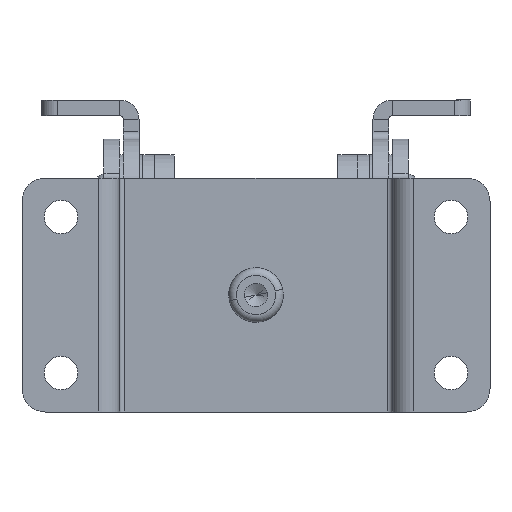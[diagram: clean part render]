
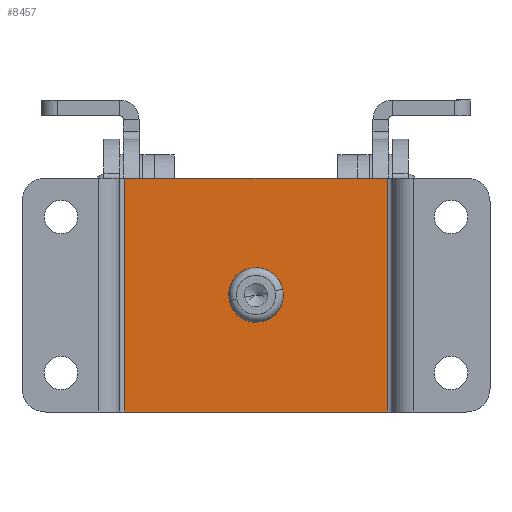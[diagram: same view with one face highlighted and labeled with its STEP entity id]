
A CAD part, front view. The second image highlights one B-rep face of the part: STEP entity #8457.
In plain terms, the highlighted planar face has unit normal (0, -1, 0).
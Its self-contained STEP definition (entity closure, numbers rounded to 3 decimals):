
#8400 = CARTESIAN_POINT ( 'NONE',  ( 0., -2., 0. ) ) ;
#8401 = DIRECTION ( 'NONE',  ( 0., 1., 0. ) ) ;
#8402 = DIRECTION ( 'NONE',  ( 0., 0., 1. ) ) ;
#8403 = CARTESIAN_POINT ( 'NONE',  ( -16.8, -2., -15. ) ) ;
#8404 = DIRECTION ( 'NONE',  ( 0., 0., 1. ) ) ;
#8405 = CARTESIAN_POINT ( 'NONE',  ( 19.5, -2., -15. ) ) ;
#8406 = DIRECTION ( 'NONE',  ( -1., 0., 0. ) ) ;
#8437 = PLANE ( 'NONE',  #14036 ) ;
#8438 = CARTESIAN_POINT ( 'NONE',  ( -19.5, -2., -15. ) ) ;
#8439 = DIRECTION ( 'NONE',  ( 0., 1., 0. ) ) ;
#8440 = DIRECTION ( 'NONE',  ( 0., 0., 1. ) ) ;
#8446 = EDGE_CURVE ( 'NONE', #8832, #8831, #14023, .T. ) ;
#8447 = EDGE_CURVE ( 'NONE', #8823, #8820, #13819, .T. ) ;
#8448 = EDGE_CURVE ( 'NONE', #8814, #8823, #13820, .T. ) ;
#8457 = ADVANCED_FACE ( 'NONE', ( #13828, #13829 ), #8437, .F. ) ;
#8505 = EDGE_CURVE ( 'NONE', #8831, #8832, #14088, .T. ) ;
#8529 = EDGE_CURVE ( 'NONE', #8894, #8814, #13910, .T. ) ;
#8530 = EDGE_CURVE ( 'NONE', #8820, #8894, #13911, .T. ) ;
#8814 = VERTEX_POINT ( 'NONE', #15060 ) ;
#8820 = VERTEX_POINT ( 'NONE', #15066 ) ;
#8823 = VERTEX_POINT ( 'NONE', #15069 ) ;
#8831 = VERTEX_POINT ( 'NONE', #15077 ) ;
#8832 = VERTEX_POINT ( 'NONE', #15078 ) ;
#8894 = VERTEX_POINT ( 'NONE', #15096 ) ;
#9671 = EDGE_LOOP ( 'NONE', ( #9916, #9917 ) ) ;
#9672 = EDGE_LOOP ( 'NONE', ( #9915, #9919, #9918, #9920 ) ) ;
#9915 = ORIENTED_EDGE ( 'NONE', *, *, #8447, .F. ) ;
#9916 = ORIENTED_EDGE ( 'NONE', *, *, #8446, .T. ) ;
#9917 = ORIENTED_EDGE ( 'NONE', *, *, #8505, .T. ) ;
#9918 = ORIENTED_EDGE ( 'NONE', *, *, #8529, .F. ) ;
#9919 = ORIENTED_EDGE ( 'NONE', *, *, #8448, .F. ) ;
#9920 = ORIENTED_EDGE ( 'NONE', *, *, #8530, .F. ) ;
#13819 = LINE ( 'NONE', #8403, #14025 ) ;
#13820 = LINE ( 'NONE', #8405, #14027 ) ;
#13828 = FACE_BOUND ( 'NONE', #9671, .T. ) ;
#13829 = FACE_OUTER_BOUND ( 'NONE', #9672, .T. ) ;
#13910 = LINE ( 'NONE', #14289, #15148 ) ;
#13911 = LINE ( 'NONE', #14291, #15150 ) ;
#14023 = CIRCLE ( 'NONE', #14024, 2.5 ) ;
#14024 = AXIS2_PLACEMENT_3D ( 'NONE', #8400, #8401, #8402 ) ;
#14025 = VECTOR ( 'NONE', #8404, 1000. ) ;
#14027 = VECTOR ( 'NONE', #8406, 1000. ) ;
#14036 = AXIS2_PLACEMENT_3D ( 'NONE', #8438, #8439, #8440 ) ;
#14088 = CIRCLE ( 'NONE', #14092, 2.5 ) ;
#14092 = AXIS2_PLACEMENT_3D ( 'NONE', #14240, #14241, #14242 ) ;
#14240 = CARTESIAN_POINT ( 'NONE',  ( 0., -2., 0. ) ) ;
#14241 = DIRECTION ( 'NONE',  ( 0., 1., 0. ) ) ;
#14242 = DIRECTION ( 'NONE',  ( 0., 0., 1. ) ) ;
#14289 = CARTESIAN_POINT ( 'NONE',  ( 16.8, -2., 15. ) ) ;
#14290 = DIRECTION ( 'NONE',  ( 0., 0., -1. ) ) ;
#14291 = CARTESIAN_POINT ( 'NONE',  ( 19.5, -2., 15. ) ) ;
#14292 = DIRECTION ( 'NONE',  ( 1., 0., 0. ) ) ;
#15060 = CARTESIAN_POINT ( 'NONE',  ( 16.8, -2., -15. ) ) ;
#15066 = CARTESIAN_POINT ( 'NONE',  ( -16.8, -2., 15. ) ) ;
#15069 = CARTESIAN_POINT ( 'NONE',  ( -16.8, -2., -15. ) ) ;
#15077 = CARTESIAN_POINT ( 'NONE',  ( 0., -2., -2.5 ) ) ;
#15078 = CARTESIAN_POINT ( 'NONE',  ( 0., -2., 2.5 ) ) ;
#15096 = CARTESIAN_POINT ( 'NONE',  ( 16.8, -2., 15. ) ) ;
#15148 = VECTOR ( 'NONE', #14290, 1000. ) ;
#15150 = VECTOR ( 'NONE', #14292, 1000. ) ;
